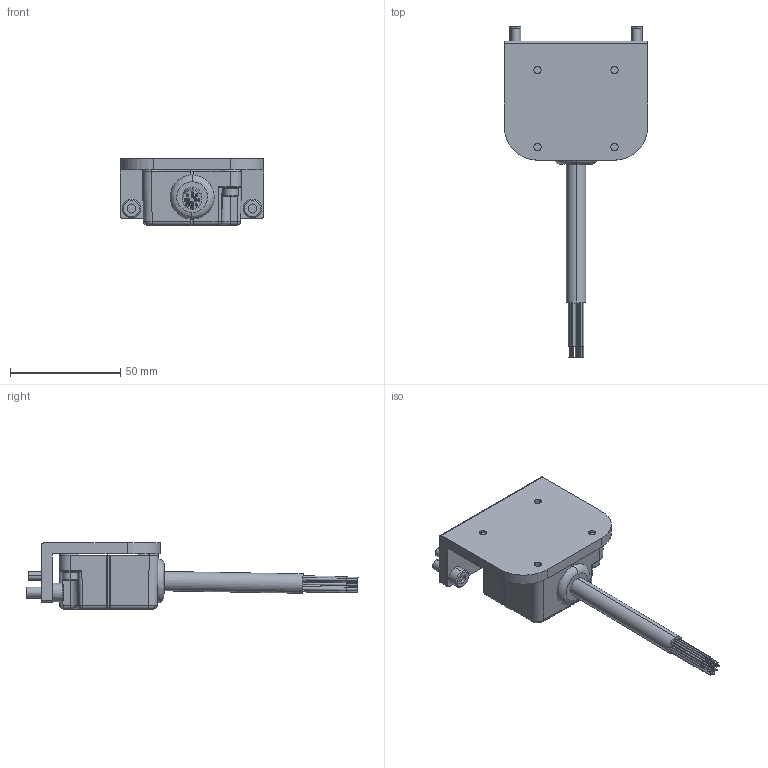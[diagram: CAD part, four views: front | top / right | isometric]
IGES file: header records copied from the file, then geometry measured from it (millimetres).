
Start section: 3D InterOp IGES (v. 2022 1.0.0), Spatial Corp. Copyright (c) 1999-2020.
Global section: file name: KHB-45~300RS-NN12,NP12_ver1.igs; native system: Spatial Corp.; preprocessor: 3D InterOp GENERIC/IGES 3.0; author: Noname; organization: Noname; date: 20260427.143224; units: millimetre
Bounding box: 65 x 150.84 x 30 mm (x, y, z)
Surface area: 23759.2 mm2 (no closed solid volume)
Topology: 0 solids, 0 shells, 345 faces, 1594 edges, 1594 vertices
Faces by surface type: revolution 204, extrusion 125, bspline 16
